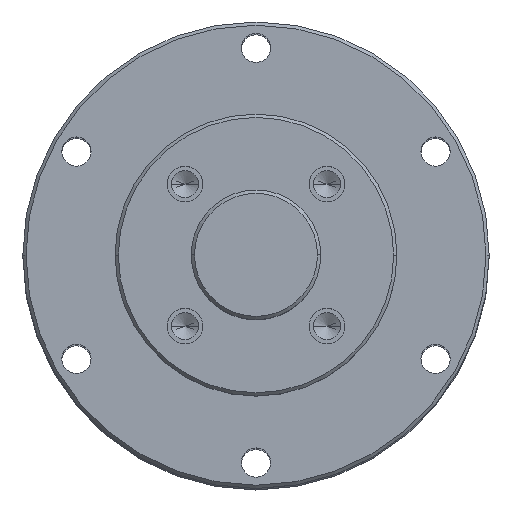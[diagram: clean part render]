
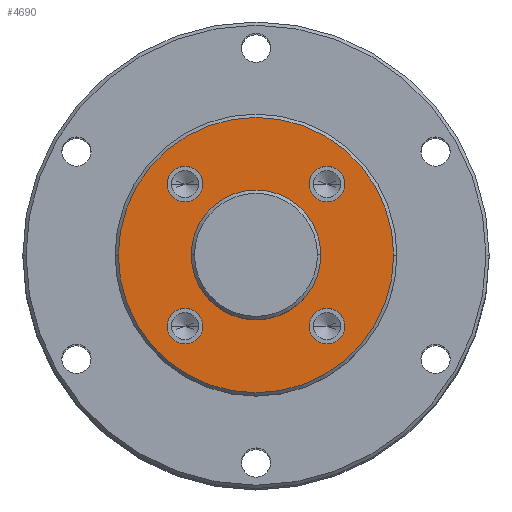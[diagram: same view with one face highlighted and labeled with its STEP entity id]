
A CAD part, top view. The second image highlights one B-rep face of the part: STEP entity #4690.
In plain terms, the highlighted planar face has unit normal (0, 0, 1).
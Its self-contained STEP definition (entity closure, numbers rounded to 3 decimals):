
#18 = CIRCLE ( 'NONE', #4893, 2.75 ) ;
#46 = CARTESIAN_POINT ( 'NONE',  ( 0., 0., 0. ) ) ;
#50 = EDGE_CURVE ( 'NONE', #3191, #2609, #4920, .T. ) ;
#143 = CARTESIAN_POINT ( 'NONE',  ( 8.21, -10.96, 0. ) ) ;
#185 = CARTESIAN_POINT ( 'NONE',  ( 0., 0., 0. ) ) ;
#191 = PLANE ( 'NONE',  #4985 ) ;
#192 = CIRCLE ( 'NONE', #475, 10. ) ;
#267 = EDGE_LOOP ( 'NONE', ( #4532, #3266 ) ) ;
#280 = AXIS2_PLACEMENT_3D ( 'NONE', #946, #3981, #1385 ) ;
#286 = FACE_BOUND ( 'NONE', #267, .T. ) ;
#338 = DIRECTION ( 'NONE',  ( 0., 0., 1. ) ) ;
#456 = DIRECTION ( 'NONE',  ( 0., 0., 1. ) ) ;
#475 = AXIS2_PLACEMENT_3D ( 'NONE', #46, #3100, #499 ) ;
#499 = DIRECTION ( 'NONE',  ( 1., 0., 0. ) ) ;
#507 = EDGE_CURVE ( 'NONE', #3050, #2674, #3973, .T. ) ;
#509 = AXIS2_PLACEMENT_3D ( 'NONE', #2946, #338, #3382 ) ;
#611 = DIRECTION ( 'NONE',  ( 1., 0., 0. ) ) ;
#622 = ORIENTED_EDGE ( 'NONE', *, *, #5349, .F. ) ;
#639 = DIRECTION ( 'NONE',  ( -1., 0., 0. ) ) ;
#648 = EDGE_CURVE ( 'NONE', #2445, #1640, #2141, .T. ) ;
#760 = EDGE_CURVE ( 'NONE', #5594, #4897, #1473, .T. ) ;
#836 = ORIENTED_EDGE ( 'NONE', *, *, #5665, .T. ) ;
#946 = CARTESIAN_POINT ( 'NONE',  ( 10.96, -10.96, 0. ) ) ;
#994 = ORIENTED_EDGE ( 'NONE', *, *, #507, .T. ) ;
#1059 = DIRECTION ( 'NONE',  ( 0., 0., 1. ) ) ;
#1062 = EDGE_CURVE ( 'NONE', #2054, #1583, #4467, .T. ) ;
#1132 = CARTESIAN_POINT ( 'NONE',  ( 10.96, 10.96, 0. ) ) ;
#1309 = DIRECTION ( 'NONE',  ( 0., 0., 1. ) ) ;
#1385 = DIRECTION ( 'NONE',  ( 1., 0., 0. ) ) ;
#1409 = DIRECTION ( 'NONE',  ( 0., 0., 1. ) ) ;
#1451 = AXIS2_PLACEMENT_3D ( 'NONE', #1482, #1059, #611 ) ;
#1473 = CIRCLE ( 'NONE', #5240, 2.75 ) ;
#1482 = CARTESIAN_POINT ( 'NONE',  ( -10.96, 10.96, 0. ) ) ;
#1484 = FACE_BOUND ( 'NONE', #3401, .T. ) ;
#1583 = VERTEX_POINT ( 'NONE', #143 ) ;
#1587 = DIRECTION ( 'NONE',  ( -1., 0., 0. ) ) ;
#1607 = FACE_BOUND ( 'NONE', #4035, .T. ) ;
#1640 = VERTEX_POINT ( 'NONE', #4567 ) ;
#1657 = CARTESIAN_POINT ( 'NONE',  ( 8.21, 10.96, 0. ) ) ;
#1771 = CIRCLE ( 'NONE', #3830, 2.75 ) ;
#1836 = CARTESIAN_POINT ( 'NONE',  ( 13.71, 10.96, 0. ) ) ;
#1872 = ORIENTED_EDGE ( 'NONE', *, *, #50, .F. ) ;
#1884 = DIRECTION ( 'NONE',  ( 0., 0., 1. ) ) ;
#2054 = VERTEX_POINT ( 'NONE', #2684 ) ;
#2141 = CIRCLE ( 'NONE', #5176, 2.75 ) ;
#2189 = ORIENTED_EDGE ( 'NONE', *, *, #3809, .F. ) ;
#2241 = AXIS2_PLACEMENT_3D ( 'NONE', #185, #3232, #639 ) ;
#2269 = ORIENTED_EDGE ( 'NONE', *, *, #2499, .F. ) ;
#2354 = CARTESIAN_POINT ( 'NONE',  ( -10.96, -10.96, 0. ) ) ;
#2387 = DIRECTION ( 'NONE',  ( -1., 0., 0. ) ) ;
#2445 = VERTEX_POINT ( 'NONE', #4635 ) ;
#2485 = DIRECTION ( 'NONE',  ( 0., 0., 1. ) ) ;
#2499 = EDGE_CURVE ( 'NONE', #2609, #3191, #1771, .T. ) ;
#2609 = VERTEX_POINT ( 'NONE', #5660 ) ;
#2616 = FACE_OUTER_BOUND ( 'NONE', #4006, .T. ) ;
#2674 = VERTEX_POINT ( 'NONE', #3565 ) ;
#2684 = CARTESIAN_POINT ( 'NONE',  ( 13.71, -10.96, 0. ) ) ;
#2785 = DIRECTION ( 'NONE',  ( -1., 0., 0. ) ) ;
#2877 = AXIS2_PLACEMENT_3D ( 'NONE', #3899, #1309, #4354 ) ;
#2892 = EDGE_CURVE ( 'NONE', #1640, #2445, #3912, .T. ) ;
#2946 = CARTESIAN_POINT ( 'NONE',  ( 0., 0., 0. ) ) ;
#3050 = VERTEX_POINT ( 'NONE', #4161 ) ;
#3067 = CARTESIAN_POINT ( 'NONE',  ( 10.96, -10.96, 0. ) ) ;
#3100 = DIRECTION ( 'NONE',  ( 0., 0., 1. ) ) ;
#3135 = EDGE_LOOP ( 'NONE', ( #3713, #2189 ) ) ;
#3190 = ORIENTED_EDGE ( 'NONE', *, *, #5567, .F. ) ;
#3191 = VERTEX_POINT ( 'NONE', #4736 ) ;
#3232 = DIRECTION ( 'NONE',  ( 0., 0., 1. ) ) ;
#3266 = ORIENTED_EDGE ( 'NONE', *, *, #2892, .F. ) ;
#3276 = VERTEX_POINT ( 'NONE', #3476 ) ;
#3382 = DIRECTION ( 'NONE',  ( 1., 0., 0. ) ) ;
#3401 = EDGE_LOOP ( 'NONE', ( #3190, #622 ) ) ;
#3462 = CIRCLE ( 'NONE', #509, 10. ) ;
#3476 = CARTESIAN_POINT ( 'NONE',  ( 10., 0., 0. ) ) ;
#3498 = DIRECTION ( 'NONE',  ( 1., 0., 0. ) ) ;
#3565 = CARTESIAN_POINT ( 'NONE',  ( -21.25, 0., 0. ) ) ;
#3624 = AXIS2_PLACEMENT_3D ( 'NONE', #4482, #1884, #4953 ) ;
#3639 = FACE_BOUND ( 'NONE', #4277, .T. ) ;
#3679 = CARTESIAN_POINT ( 'NONE',  ( 0., 21.75, 0. ) ) ;
#3713 = ORIENTED_EDGE ( 'NONE', *, *, #760, .F. ) ;
#3809 = EDGE_CURVE ( 'NONE', #4897, #5594, #3994, .T. ) ;
#3830 = AXIS2_PLACEMENT_3D ( 'NONE', #5162, #2485, #5592 ) ;
#3899 = CARTESIAN_POINT ( 'NONE',  ( 10.96, 10.96, 0. ) ) ;
#3912 = CIRCLE ( 'NONE', #3624, 2.75 ) ;
#3973 = CIRCLE ( 'NONE', #4015, 21.25 ) ;
#3981 = DIRECTION ( 'NONE',  ( 0., 0., 1. ) ) ;
#3994 = CIRCLE ( 'NONE', #2877, 2.75 ) ;
#3999 = CARTESIAN_POINT ( 'NONE',  ( 0., 0., 0. ) ) ;
#4006 = EDGE_LOOP ( 'NONE', ( #836, #994 ) ) ;
#4015 = AXIS2_PLACEMENT_3D ( 'NONE', #3999, #1409, #4459 ) ;
#4035 = EDGE_LOOP ( 'NONE', ( #1872, #2269 ) ) ;
#4161 = CARTESIAN_POINT ( 'NONE',  ( 21.25, 0., 0. ) ) ;
#4183 = DIRECTION ( 'NONE',  ( 0., 0., 1. ) ) ;
#4187 = EDGE_CURVE ( 'NONE', #1583, #2054, #18, .T. ) ;
#4277 = EDGE_LOOP ( 'NONE', ( #5409, #4723 ) ) ;
#4354 = DIRECTION ( 'NONE',  ( -1., 0., 0. ) ) ;
#4459 = DIRECTION ( 'NONE',  ( -1., 0., 0. ) ) ;
#4467 = CIRCLE ( 'NONE', #280, 2.75 ) ;
#4482 = CARTESIAN_POINT ( 'NONE',  ( -10.96, -10.96, 0. ) ) ;
#4532 = ORIENTED_EDGE ( 'NONE', *, *, #648, .F. ) ;
#4567 = CARTESIAN_POINT ( 'NONE',  ( -13.71, -10.96, 0. ) ) ;
#4635 = CARTESIAN_POINT ( 'NONE',  ( -8.21, -10.96, 0. ) ) ;
#4690 = ADVANCED_FACE ( 'NONE', ( #1484, #2616, #1607, #286, #4835, #3639 ), #191, .F. ) ;
#4723 = ORIENTED_EDGE ( 'NONE', *, *, #4187, .F. ) ;
#4736 = CARTESIAN_POINT ( 'NONE',  ( -8.21, 10.96, 0. ) ) ;
#4775 = CARTESIAN_POINT ( 'NONE',  ( -10., 0., 0. ) ) ;
#4835 = FACE_BOUND ( 'NONE', #3135, .T. ) ;
#4893 = AXIS2_PLACEMENT_3D ( 'NONE', #3067, #456, #3498 ) ;
#4897 = VERTEX_POINT ( 'NONE', #1657 ) ;
#4920 = CIRCLE ( 'NONE', #1451, 2.75 ) ;
#4953 = DIRECTION ( 'NONE',  ( -1., 0., 0. ) ) ;
#4985 = AXIS2_PLACEMENT_3D ( 'NONE', #3679, #5060, #2387 ) ;
#5032 = VERTEX_POINT ( 'NONE', #4775 ) ;
#5060 = DIRECTION ( 'NONE',  ( 0., 0., -1. ) ) ;
#5162 = CARTESIAN_POINT ( 'NONE',  ( -10.96, 10.96, 0. ) ) ;
#5176 = AXIS2_PLACEMENT_3D ( 'NONE', #2354, #5474, #2785 ) ;
#5240 = AXIS2_PLACEMENT_3D ( 'NONE', #1132, #4183, #1587 ) ;
#5349 = EDGE_CURVE ( 'NONE', #5032, #3276, #3462, .T. ) ;
#5381 = CIRCLE ( 'NONE', #2241, 21.25 ) ;
#5409 = ORIENTED_EDGE ( 'NONE', *, *, #1062, .F. ) ;
#5474 = DIRECTION ( 'NONE',  ( 0., 0., 1. ) ) ;
#5567 = EDGE_CURVE ( 'NONE', #3276, #5032, #192, .T. ) ;
#5592 = DIRECTION ( 'NONE',  ( 1., 0., 0. ) ) ;
#5594 = VERTEX_POINT ( 'NONE', #1836 ) ;
#5660 = CARTESIAN_POINT ( 'NONE',  ( -13.71, 10.96, 0. ) ) ;
#5665 = EDGE_CURVE ( 'NONE', #2674, #3050, #5381, .T. ) ;
